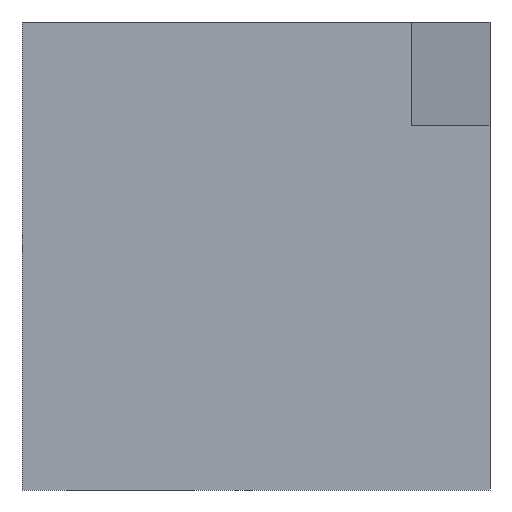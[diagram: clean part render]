
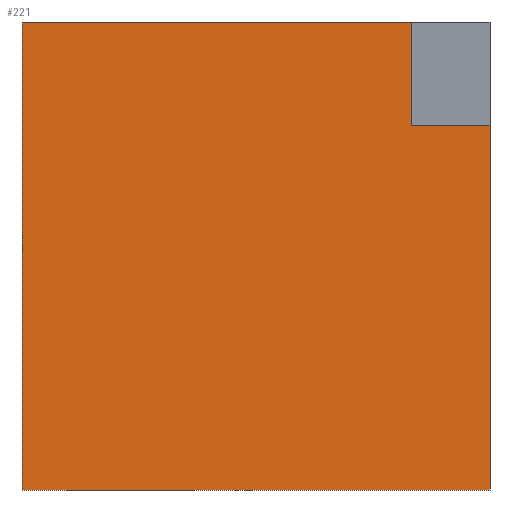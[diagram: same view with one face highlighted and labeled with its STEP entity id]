
A CAD part, front view. The second image highlights one B-rep face of the part: STEP entity #221.
In plain terms, the highlighted planar face has unit normal (0, -1, 0).
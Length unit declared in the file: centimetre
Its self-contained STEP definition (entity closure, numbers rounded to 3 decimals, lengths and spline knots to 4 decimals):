
#18 = CARTESIAN_POINT ( 'NONE',  ( 0., 0., 1000. ) ) ;
#50 = EDGE_CURVE ( 'NONE', #1403, #359, #1161, .T. ) ;
#118 = AXIS2_PLACEMENT_3D ( 'NONE', #18, #925, #1457 ) ;
#125 = PLANE ( 'NONE',  #118 ) ;
#150 = CARTESIAN_POINT ( 'NONE',  ( 0., 0., 1000. ) ) ;
#220 = VECTOR ( 'NONE', #759, 100. ) ;
#221 = ADVANCED_FACE ( 'NONE', ( #1239 ), #125, .F. ) ;
#241 = CARTESIAN_POINT ( 'NONE',  ( 0., 0., 0. ) ) ;
#259 = CARTESIAN_POINT ( 'NONE',  ( 832.8105, 0., 779.4404 ) ) ;
#287 = ORIENTED_EDGE ( 'NONE', *, *, #842, .T. ) ;
#307 = CARTESIAN_POINT ( 'NONE',  ( 0., 0., 1000. ) ) ;
#323 = EDGE_CURVE ( 'NONE', #1059, #479, #581, .T. ) ;
#359 = VERTEX_POINT ( 'NONE', #826 ) ;
#413 = VECTOR ( 'NONE', #1271, 100. ) ;
#422 = VERTEX_POINT ( 'NONE', #1423 ) ;
#435 = LINE ( 'NONE', #891, #666 ) ;
#448 = VECTOR ( 'NONE', #601, 100. ) ;
#450 = LINE ( 'NONE', #241, #833 ) ;
#479 = VERTEX_POINT ( 'NONE', #1210 ) ;
#581 = LINE ( 'NONE', #259, #413 ) ;
#600 = CARTESIAN_POINT ( 'NONE',  ( 0., 0., 1000. ) ) ;
#601 = DIRECTION ( 'NONE',  ( 0., 0., -1. ) ) ;
#666 = VECTOR ( 'NONE', #1333, 100. ) ;
#686 = EDGE_CURVE ( 'NONE', #479, #1004, #435, .T. ) ;
#689 = DIRECTION ( 'NONE',  ( 1., 0., 0. ) ) ;
#759 = DIRECTION ( 'NONE',  ( 1., 0., 0. ) ) ;
#787 = LINE ( 'NONE', #1318, #1068 ) ;
#826 = CARTESIAN_POINT ( 'NONE',  ( 0., 0., 0. ) ) ;
#833 = VECTOR ( 'NONE', #689, 100. ) ;
#842 = EDGE_CURVE ( 'NONE', #359, #1004, #450, .T. ) ;
#891 = CARTESIAN_POINT ( 'NONE',  ( 1000., 0., 1000. ) ) ;
#901 = ORIENTED_EDGE ( 'NONE', *, *, #323, .F. ) ;
#916 = EDGE_CURVE ( 'NONE', #1059, #422, #787, .T. ) ;
#925 = DIRECTION ( 'NONE',  ( 0., 1., 0. ) ) ;
#942 = ORIENTED_EDGE ( 'NONE', *, *, #50, .T. ) ;
#974 = DIRECTION ( 'NONE',  ( 0., 0., 1. ) ) ;
#1004 = VERTEX_POINT ( 'NONE', #1080 ) ;
#1053 = EDGE_CURVE ( 'NONE', #1403, #422, #1312, .T. ) ;
#1059 = VERTEX_POINT ( 'NONE', #1127 ) ;
#1068 = VECTOR ( 'NONE', #974, 100. ) ;
#1080 = CARTESIAN_POINT ( 'NONE',  ( 1000., 0., 0. ) ) ;
#1127 = CARTESIAN_POINT ( 'NONE',  ( 832.8105, 0., 779.4404 ) ) ;
#1137 = ORIENTED_EDGE ( 'NONE', *, *, #1053, .F. ) ;
#1145 = ORIENTED_EDGE ( 'NONE', *, *, #916, .T. ) ;
#1161 = LINE ( 'NONE', #150, #448 ) ;
#1210 = CARTESIAN_POINT ( 'NONE',  ( 1000., 0., 779.4404 ) ) ;
#1239 = FACE_OUTER_BOUND ( 'NONE', #1349, .T. ) ;
#1253 = ORIENTED_EDGE ( 'NONE', *, *, #686, .F. ) ;
#1271 = DIRECTION ( 'NONE',  ( 1., 0., 0. ) ) ;
#1312 = LINE ( 'NONE', #307, #220 ) ;
#1318 = CARTESIAN_POINT ( 'NONE',  ( 832.8105, 0., 779.4404 ) ) ;
#1333 = DIRECTION ( 'NONE',  ( 0., 0., -1. ) ) ;
#1349 = EDGE_LOOP ( 'NONE', ( #901, #1145, #1137, #942, #287, #1253 ) ) ;
#1403 = VERTEX_POINT ( 'NONE', #600 ) ;
#1423 = CARTESIAN_POINT ( 'NONE',  ( 832.8105, 0., 1000. ) ) ;
#1457 = DIRECTION ( 'NONE',  ( 0., 0., 1. ) ) ;
